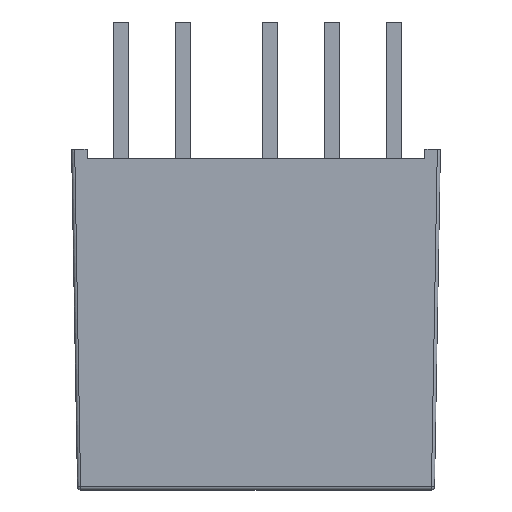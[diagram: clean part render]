
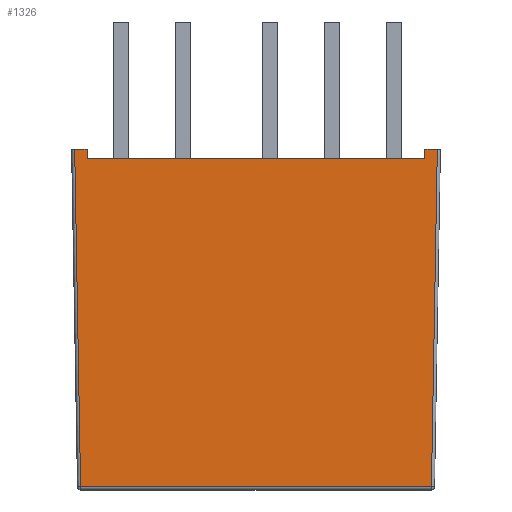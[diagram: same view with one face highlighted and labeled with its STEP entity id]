
A CAD part, front view. The second image highlights one B-rep face of the part: STEP entity #1326.
In plain terms, the highlighted planar face has unit normal (0, -1, -0.018).
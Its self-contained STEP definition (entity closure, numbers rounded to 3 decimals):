
#2 = VERTEX_POINT ( 'NONE', #1004 ) ;
#48 = EDGE_CURVE ( 'NONE', #1680, #2, #918, .T. ) ;
#49 = CARTESIAN_POINT ( 'NONE',  ( -5.45, -3.845, -0.3 ) ) ;
#50 = DIRECTION ( 'NONE',  ( 0., 0.017, -1. ) ) ;
#114 = CARTESIAN_POINT ( 'NONE',  ( -5.95, -3.845, -0.3 ) ) ;
#120 = VECTOR ( 'NONE', #726, 1000. ) ;
#140 = LINE ( 'NONE', #399, #839 ) ;
#147 = ORIENTED_EDGE ( 'NONE', *, *, #737, .F. ) ;
#176 = EDGE_CURVE ( 'NONE', #1154, #977, #1018, .T. ) ;
#309 = DIRECTION ( 'NONE',  ( 1., 0., 0. ) ) ;
#317 = CARTESIAN_POINT ( 'NONE',  ( -5.85, -3.85, 0.002 ) ) ;
#322 = VERTEX_POINT ( 'NONE', #1564 ) ;
#337 = LINE ( 'NONE', #1385, #1777 ) ;
#344 = ORIENTED_EDGE ( 'NONE', *, *, #855, .T. ) ;
#399 = CARTESIAN_POINT ( 'NONE',  ( -5.45, -3.85, 0. ) ) ;
#409 = LINE ( 'NONE', #114, #785 ) ;
#442 = CARTESIAN_POINT ( 'NONE',  ( -5.95, -3.85, 0. ) ) ;
#449 = VECTOR ( 'NONE', #765, 1000. ) ;
#497 = LINE ( 'NONE', #1535, #120 ) ;
#546 = VECTOR ( 'NONE', #309, 1000. ) ;
#547 = CARTESIAN_POINT ( 'NONE',  ( 5.85, -3.85, 0. ) ) ;
#570 = VERTEX_POINT ( 'NONE', #1411 ) ;
#574 = DIRECTION ( 'NONE',  ( 1., 0., 0. ) ) ;
#610 = EDGE_CURVE ( 'NONE', #1680, #570, #740, .T. ) ;
#611 = VECTOR ( 'NONE', #1402, 1000. ) ;
#635 = ORIENTED_EDGE ( 'NONE', *, *, #48, .F. ) ;
#693 = VECTOR ( 'NONE', #1009, 1000. ) ;
#726 = DIRECTION ( 'NONE',  ( 0., -0.017, 1. ) ) ;
#737 = EDGE_CURVE ( 'NONE', #872, #1154, #497, .T. ) ;
#740 = LINE ( 'NONE', #317, #693 ) ;
#765 = DIRECTION ( 'NONE',  ( 0.017, -0.017, 1. ) ) ;
#785 = VECTOR ( 'NONE', #953, 1000. ) ;
#796 = AXIS2_PLACEMENT_3D ( 'NONE', #1287, #881, #50 ) ;
#839 = VECTOR ( 'NONE', #1358, 1000. ) ;
#855 = EDGE_CURVE ( 'NONE', #570, #322, #337, .T. ) ;
#872 = VERTEX_POINT ( 'NONE', #1390 ) ;
#881 = DIRECTION ( 'NONE',  ( 0., -1., -0.017 ) ) ;
#918 = LINE ( 'NONE', #1134, #546 ) ;
#927 = EDGE_CURVE ( 'NONE', #1673, #872, #409, .T. ) ;
#953 = DIRECTION ( 'NONE',  ( 1., 0., 0. ) ) ;
#977 = VERTEX_POINT ( 'NONE', #547 ) ;
#1001 = ORIENTED_EDGE ( 'NONE', *, *, #1407, .T. ) ;
#1004 = CARTESIAN_POINT ( 'NONE',  ( -5.45, -3.85, 0. ) ) ;
#1009 = DIRECTION ( 'NONE',  ( 0.017, 0.017, -1. ) ) ;
#1018 = LINE ( 'NONE', #442, #611 ) ;
#1033 = FACE_OUTER_BOUND ( 'NONE', #1049, .T. ) ;
#1049 = EDGE_LOOP ( 'NONE', ( #344, #1001, #1052, #147, #1472, #1365, #635, #1257 ) ) ;
#1052 = ORIENTED_EDGE ( 'NONE', *, *, #176, .F. ) ;
#1134 = CARTESIAN_POINT ( 'NONE',  ( -5.95, -3.85, 0. ) ) ;
#1154 = VERTEX_POINT ( 'NONE', #1756 ) ;
#1155 = PLANE ( 'NONE',  #796 ) ;
#1257 = ORIENTED_EDGE ( 'NONE', *, *, #610, .T. ) ;
#1286 = EDGE_CURVE ( 'NONE', #1673, #2, #140, .T. ) ;
#1287 = CARTESIAN_POINT ( 'NONE',  ( -5.95, -3.85, 0. ) ) ;
#1326 = ADVANCED_FACE ( 'NONE', ( #1033 ), #1155, .T. ) ;
#1358 = DIRECTION ( 'NONE',  ( 0., -0.017, 1. ) ) ;
#1365 = ORIENTED_EDGE ( 'NONE', *, *, #1286, .T. ) ;
#1385 = CARTESIAN_POINT ( 'NONE',  ( 5.758, -3.66, -10.902 ) ) ;
#1390 = CARTESIAN_POINT ( 'NONE',  ( 5.45, -3.845, -0.3 ) ) ;
#1402 = DIRECTION ( 'NONE',  ( 1., 0., 0. ) ) ;
#1407 = EDGE_CURVE ( 'NONE', #322, #977, #1539, .T. ) ;
#1411 = CARTESIAN_POINT ( 'NONE',  ( -5.66, -3.66, -10.902 ) ) ;
#1472 = ORIENTED_EDGE ( 'NONE', *, *, #927, .F. ) ;
#1535 = CARTESIAN_POINT ( 'NONE',  ( 5.45, -3.85, 0. ) ) ;
#1539 = LINE ( 'NONE', #1576, #449 ) ;
#1564 = CARTESIAN_POINT ( 'NONE',  ( 5.66, -3.66, -10.902 ) ) ;
#1576 = CARTESIAN_POINT ( 'NONE',  ( 5.846, -3.846, -0.206 ) ) ;
#1673 = VERTEX_POINT ( 'NONE', #49 ) ;
#1680 = VERTEX_POINT ( 'NONE', #1714 ) ;
#1714 = CARTESIAN_POINT ( 'NONE',  ( -5.85, -3.85, 0. ) ) ;
#1756 = CARTESIAN_POINT ( 'NONE',  ( 5.45, -3.85, 0. ) ) ;
#1777 = VECTOR ( 'NONE', #574, 1000. ) ;
